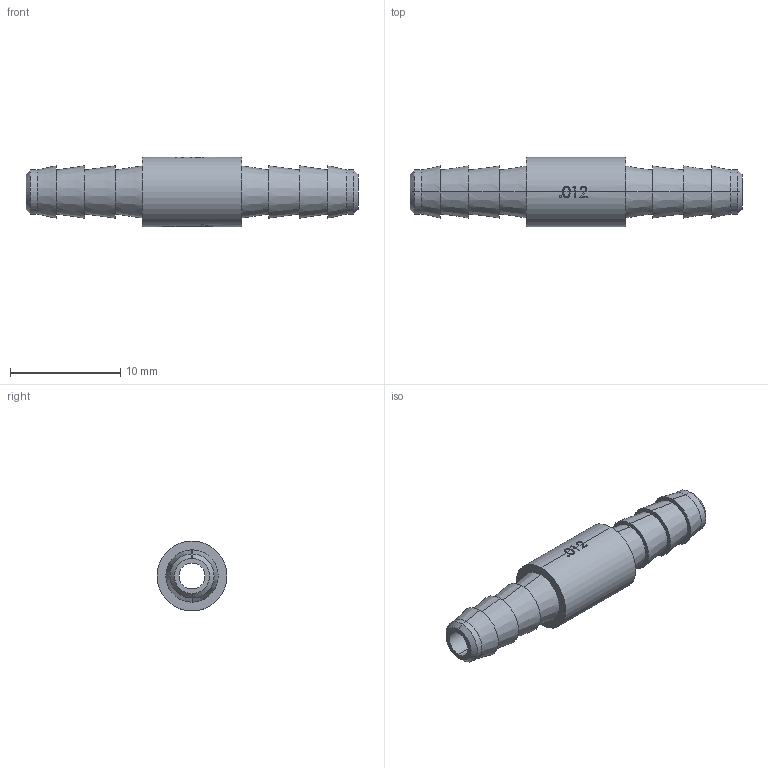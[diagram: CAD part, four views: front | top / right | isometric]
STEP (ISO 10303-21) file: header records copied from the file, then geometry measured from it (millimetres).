
FILE_DESCRIPTION(/* description */ ('SolidWorks IGES file using analytic representation for surfaces '),/* implementation_level */ '2;1');
FILE_NAME(/* name */ 'K:\Normteile INVENTOR\Air-Logic\Orifice restrictors\F-2815-121-B85.IGS.ipt.stp',/* time_stamp */ '2020-05-27T10:46:12+02:00',/* author */ ('cad'),/* organization */ (''),/* preprocessor_version */ 'ST-DEVELOPER v18',/* originating_system */ 'Autodesk Inventor 2020',/* authorisation */ '');
FILE_SCHEMA (('AUTOMOTIVE_DESIGN { 1 0 10303 214 3 1 1 }'));
Length unit declared in the file: millimetre
Products named in the file (1): F-2815-121-B85.IGS
Bounding box: 30.15 x 6.35 x 6.35 mm (x, y, z)
Surface area: 764.9 mm2 (no closed solid volume)
Topology: 0 solids, 86 shells, 86 faces, 407 edges, 407 vertices
Faces by surface type: plane 24, bspline 24, cone 20, cylinder 18
Entity records: 6942 total; most frequent: CARTESIAN_POINT 3727, DIRECTION 542, VERTEX_POINT 407, EDGE_CURVE 407, ORIENTED_EDGE 407, LINE 198, VECTOR 198, AXIS2_PLACEMENT_3D 172
